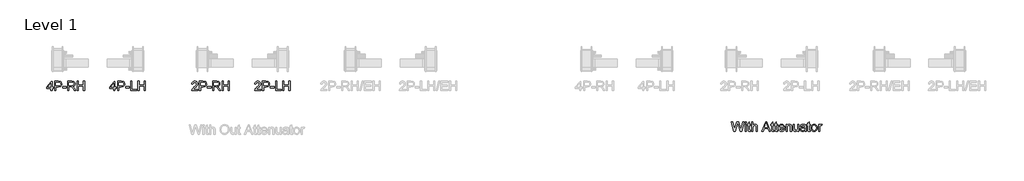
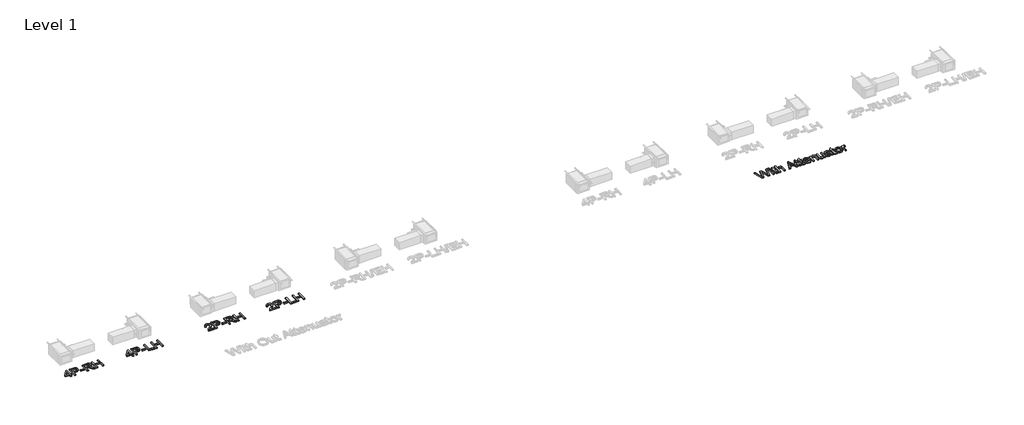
# One storey, part 3 of 4: 5 proxies.
"""IFC4 building model written with IfcOpenShell, lengths in millimetres."""

from ifc_helpers import new_model, si_unit, origin, origin_with_axes, place, context, project, spatial, polyline, outline, extrude, element, save

model = new_model("IFC4")

# Units and contexts
model_context = context("Model", 3, world=origin())
ifc_project = project(units=[si_unit("LENGTHUNIT", "METRE", prefix="MILLI")], contexts=[model_context])

# Site, building, storey
site = spatial("IfcSite", under=ifc_project)
building = spatial("IfcBuilding", under=site)
storey = spatial("IfcBuildingStorey", under=building, Name="Level 1", Elevation=0.0)

# Proxies
placement = place(None, origin())
element("IfcBuildingElementProxy", 1, Name="24\" Arial", ObjectType="24\" Arial", at=placement, inside=storey, context=model_context, shape_type="SweptSolid", body=[
    extrude(outline(polyline([(-25121.8551722, 537.1633988), (-25121.8551722, 480.0570687), (-25421.6634055, 480.0570687), (-25420.4086277, 500.1613968), (-25415.5289364, 519.4292065), (-25401.4475415, 550.1991456), (-25380.8413023, 580.0489143), (-25351.0333594, 611.2928806), (-25309.3468538, 646.2454123), (-25247.7233237, 700.9816066), (-25210.7492057, 741.3854506), (-25192.2621466, 774.1769761), (-25186.0997936, 806.0762152), (-25191.9135973, 834.6712062), (-25209.3550082, 858.4422738), (-25221.8714163, 867.7868826), (-25236.1654263, 874.4616032), (-25270.0862518, 879.8013797), (-25305.7079983, 874.587081), (-25320.5387743, 868.0692076), (-25333.3828189, 858.9441849), (-25343.7730759, 847.5187363), (-25351.2424891, 834.0995852), (-25355.7910584, 818.6867317), (-25357.418784, 801.2801757), (-25414.5251142, 808.418467), (-25409.6140534, 837.8987734), (-25400.6807329, 863.6565725), (-25387.7251525, 885.6918642), (-25370.7473123, 904.0046485), (-25350.1375875, 918.3997378), (-25326.2863536, 928.6819445), (-25299.1936104, 934.8512685), (-25268.859358, 936.9077098), (-25238.2532371, 934.6212259), (-25211.0141032, 927.7617741), (-25187.1419563, 916.3293545), (-25166.6367963, 900.3239671), (-25150.1678382, 880.9306797), (-25138.4042967, 859.3345602), (-25131.3461718, 835.5356086), (-25128.9934635, 809.533825), (-25131.530903, 782.2214957), (-25139.1432214, 755.3831936), (-25152.6529953, 728.0848063), (-25172.8828012, 699.3922215), (-25205.1305897, 665.1367886), (-25254.6943113, 621.149857), (-25320.3888981, 566.218475), (-25346.1536681, 537.1633988), (-25121.8551722, 537.1633988)])), origin_with_axes(), (0.0, 0.0, 1.0), 50.8),
    extrude(outline(polyline([(-25043.3339683, 480.0570687), (-25043.3339683, 936.9077098), (-24874.0226223, 936.9077098), (-24805.7627121, 932.5578136), (-24775.3273803, 924.4296421), (-24750.273651, 911.1987077), (-24730.099613, 892.2655054), (-24714.3033552, 867.0305305), (-24704.0978294, 837.2644135), (-24700.6959875, 804.7377856), (-24702.9929279, 776.6935026), (-24709.8837491, 750.8938776), (-24721.3684511, 727.3389106), (-24737.4470339, 706.0286016), (-24759.520666, 688.3641191), (-24788.990516, 675.7466316), (-24825.8565837, 668.1761392), (-24870.1188693, 665.6526417), (-24986.2276381, 665.6526417), (-24986.2276381, 480.0570687), (-25043.3339683, 480.0570687)]), holes=[polyline([(-24986.2276381, 722.7589718), (-24866.7727952, 722.7589718), (-24816.1355415, 728.0011544), (-24797.2581072, 734.5538828), (-24782.6748012, 743.7277024), (-24771.7930896, 755.2786288), (-24764.0204385, 768.9626774), (-24759.3568478, 784.7798482), (-24757.8023176, 802.7301411), (-24761.4690571, 828.3833754), (-24772.4692754, 850.0213208), (-24789.4366592, 866.3055477), (-24811.0048947, 875.8976266), (-24868.1112248, 879.8013797), (-24986.2276381, 879.8013797), (-24986.2276381, 722.7589718)])]), origin_with_axes(), (0.0, 0.0, 1.0), 50.8),
    extrude(outline(polyline([(-24657.8662399, 615.6846028), (-24657.8662399, 672.7909329), (-24479.4089582, 672.7909329), (-24479.4089582, 615.6846028), (-24657.8662399, 615.6846028)])), origin_with_axes(), (0.0, 0.0, 1.0), 50.8),
    extrude(outline(polyline([(-24408.0260455, 480.0570687), (-24408.0260455, 936.9077098), (-24350.9197154, 936.9077098), (-24350.9197154, 537.1633988), (-24122.4943948, 537.1633988), (-24122.4943948, 480.0570687), (-24408.0260455, 480.0570687)])), origin_with_axes(), (0.0, 0.0, 1.0), 50.8),
    extrude(outline(polyline([(-24058.2497734, 480.0570687), (-24058.2497734, 936.9077098), (-24001.1434433, 936.9077098), (-24001.1434433, 751.3121369), (-23758.4415402, 751.3121369), (-23758.4415402, 936.9077098), (-23701.33521, 936.9077098), (-23701.33521, 480.0570687), (-23758.4415402, 480.0570687), (-23758.4415402, 694.2058067), (-24001.1434433, 694.2058067), (-24001.1434433, 480.0570687), (-24058.2497734, 480.0570687)])), origin_with_axes(), (0.0, 0.0, 1.0), 50.8),
])
element("IfcBuildingElementProxy", 2, Name="24\" Arial", ObjectType="24\" Arial", at=placement, inside=storey, context=model_context, shape_type="SweptSolid", body=[
    extrude(outline(polyline([(-28169.8551722, 537.1633988), (-28169.8551722, 480.0570687), (-28469.6634055, 480.0570687), (-28468.4086277, 500.1613968), (-28463.5289364, 519.4292065), (-28449.4475415, 550.1991456), (-28428.8413023, 580.0489143), (-28399.0333594, 611.2928806), (-28357.3468538, 646.2454123), (-28295.7233237, 700.9816066), (-28258.7492057, 741.3854506), (-28240.2621466, 774.1769761), (-28234.0997936, 806.0762152), (-28239.9135973, 834.6712062), (-28257.3550082, 858.4422738), (-28269.8714163, 867.7868826), (-28284.1654263, 874.4616032), (-28318.0862518, 879.8013797), (-28353.7079983, 874.587081), (-28368.5387743, 868.0692076), (-28381.3828189, 858.9441849), (-28391.7730759, 847.5187363), (-28399.2424891, 834.0995852), (-28403.7910584, 818.6867317), (-28405.418784, 801.2801757), (-28462.5251142, 808.418467), (-28457.6140534, 837.8987734), (-28448.6807329, 863.6565725), (-28435.7251525, 885.6918642), (-28418.7473123, 904.0046485), (-28398.1375875, 918.3997378), (-28374.2863536, 928.6819445), (-28347.1936104, 934.8512685), (-28316.859358, 936.9077098), (-28286.2532371, 934.6212259), (-28259.0141032, 927.7617741), (-28235.1419563, 916.3293545), (-28214.6367963, 900.3239671), (-28198.1678382, 880.9306797), (-28186.4042967, 859.3345602), (-28179.3461718, 835.5356086), (-28176.9934635, 809.533825), (-28179.530903, 782.2214957), (-28187.1432214, 755.3831936), (-28200.6529953, 728.0848063), (-28220.8828012, 699.3922215), (-28253.1305897, 665.1367886), (-28302.6943113, 621.149857), (-28368.3888981, 566.218475), (-28394.1536681, 537.1633988), (-28169.8551722, 537.1633988)])), origin_with_axes(), (0.0, 0.0, 1.0), 50.8),
    extrude(outline(polyline([(-28091.3339683, 480.0570687), (-28091.3339683, 936.9077098), (-27922.0226223, 936.9077098), (-27853.7627121, 932.5578136), (-27823.3273803, 924.4296421), (-27798.273651, 911.1987077), (-27778.099613, 892.2655054), (-27762.3033552, 867.0305305), (-27752.0978294, 837.2644135), (-27748.6959875, 804.7377856), (-27750.9929279, 776.6935026), (-27757.8837491, 750.8938776), (-27769.3684511, 727.3389106), (-27785.4470339, 706.0286016), (-27807.520666, 688.3641191), (-27836.990516, 675.7466316), (-27873.8565837, 668.1761392), (-27918.1188693, 665.6526417), (-28034.2276381, 665.6526417), (-28034.2276381, 480.0570687), (-28091.3339683, 480.0570687)]), holes=[polyline([(-28034.2276381, 722.7589718), (-27914.7727952, 722.7589718), (-27864.1355415, 728.0011544), (-27845.2581072, 734.5538828), (-27830.6748012, 743.7277024), (-27819.7930896, 755.2786288), (-27812.0204385, 768.9626774), (-27807.3568478, 784.7798482), (-27805.8023176, 802.7301411), (-27809.4690571, 828.3833754), (-27820.4692754, 850.0213208), (-27837.4366592, 866.3055477), (-27859.0048947, 875.8976266), (-27916.1112248, 879.8013797), (-28034.2276381, 879.8013797), (-28034.2276381, 722.7589718)])]), origin_with_axes(), (0.0, 0.0, 1.0), 50.8),
    extrude(outline(polyline([(-27705.8662399, 615.6846028), (-27705.8662399, 672.7909329), (-27527.4089582, 672.7909329), (-27527.4089582, 615.6846028), (-27705.8662399, 615.6846028)])), origin_with_axes(), (0.0, 0.0, 1.0), 50.8),
    extrude(outline(polyline([(-27456.0260455, 480.0570687), (-27456.0260455, 936.9077098), (-27259.1653567, 936.9077098), (-27206.255561, 933.8265333), (-27167.7617677, 924.5830038), (-27139.6268619, 907.5180262), (-27117.7937288, 880.9725056), (-27103.7820438, 848.0555023), (-27099.1114821, 811.8760768), (-27101.0459312, 788.4117327), (-27106.8492783, 766.8713811), (-27116.5215236, 747.2550221), (-27130.0626669, 729.5626557), (-27147.6469831, 714.3589318), (-27169.4487467, 702.2085004), (-27195.4679578, 693.1113617), (-27225.7046163, 687.0675155), (-27193.2476982, 662.641175), (-27146.9603408, 603.8618079), (-27070.7813887, 480.0570687), (-27137.1451903, 480.0570687), (-27196.5937723, 574.7509638), (-27239.5350557, 637.434084), (-27255.4986172, 655.7120134), (-27269.7054898, 667.0468392), (-27296.8644574, 677.9215798), (-27329.9905903, 679.9292242), (-27398.9197154, 679.9292242), (-27398.9197154, 480.0570687), (-27456.0260455, 480.0570687)]), holes=[polyline([(-27398.9197154, 737.0355543), (-27271.0996874, 737.0355543), (-27234.3904668, 739.0571407), (-27205.9070116, 745.1218999), (-27184.4642539, 755.6341492), (-27168.8771257, 770.9982057), (-27159.3826406, 789.5828586), (-27156.2178123, 809.7568966), (-27157.7270311, 824.3611156), (-27162.2546875, 837.6129629), (-27169.8007816, 849.5124387), (-27180.3653132, 860.0595429), (-27194.192267, 868.6965965), (-27211.5256276, 874.8659205), (-27256.711569, 879.8013797), (-27398.9197154, 879.8013797), (-27398.9197154, 737.0355543)])]), origin_with_axes(), (0.0, 0.0, 1.0), 50.8),
    extrude(outline(polyline([(-26999.1754044, 480.0570687), (-26999.1754044, 936.9077098), (-26942.0690743, 936.9077098), (-26942.0690743, 751.3121369), (-26699.3671712, 751.3121369), (-26699.3671712, 936.9077098), (-26642.260841, 936.9077098), (-26642.260841, 480.0570687), (-26699.3671712, 480.0570687), (-26699.3671712, 694.2058067), (-26942.0690743, 694.2058067), (-26942.0690743, 480.0570687), (-26999.1754044, 480.0570687)])), origin_with_axes(), (0.0, 0.0, 1.0), 50.8),
])
element("IfcBuildingElementProxy", 3, Name="24\" Arial", ObjectType="24\" Arial", at=placement, inside=storey, context=model_context, shape_type="SweptSolid", body=[
    extrude(outline(polyline([(-32239.3295412, 480.0570687), (-32239.3295412, 587.1314377), (-32446.339988, 587.1314377), (-32446.339988, 644.2377679), (-32225.0529587, 929.7694185), (-32182.2232111, 929.7694185), (-32182.2232111, 644.2377679), (-32125.116881, 644.2377679), (-32125.116881, 587.1314377), (-32182.2232111, 587.1314377), (-32182.2232111, 480.0570687), (-32239.3295412, 480.0570687)]), holes=[polyline([(-32239.3295412, 644.2377679), (-32239.3295412, 820.6874051), (-32376.0724333, 644.2377679), (-32239.3295412, 644.2377679)])]), origin_with_axes(), (0.0, 0.0, 1.0), 50.8),
    extrude(outline(polyline([(-32053.7339683, 480.0570687), (-32053.7339683, 936.9077098), (-31884.4226223, 936.9077098), (-31816.1627121, 932.5578136), (-31785.7273803, 924.4296421), (-31760.673651, 911.1987077), (-31740.499613, 892.2655054), (-31724.7033552, 867.0305305), (-31714.4978294, 837.2644135), (-31711.0959875, 804.7377856), (-31713.3929279, 776.6935026), (-31720.2837491, 750.8938776), (-31731.7684511, 727.3389106), (-31747.8470339, 706.0286016), (-31769.920666, 688.3641191), (-31799.390516, 675.7466316), (-31836.2565837, 668.1761392), (-31880.5188693, 665.6526417), (-31996.6276381, 665.6526417), (-31996.6276381, 480.0570687), (-32053.7339683, 480.0570687)]), holes=[polyline([(-31996.6276381, 722.7589718), (-31877.1727952, 722.7589718), (-31826.5355415, 728.0011544), (-31807.6581072, 734.5538828), (-31793.0748012, 743.7277024), (-31782.1930896, 755.2786288), (-31774.4204385, 768.9626774), (-31769.7568478, 784.7798482), (-31768.2023176, 802.7301411), (-31771.8690571, 828.3833754), (-31782.8692754, 850.0213208), (-31799.8366592, 866.3055477), (-31821.4048947, 875.8976266), (-31878.5112248, 879.8013797), (-31996.6276381, 879.8013797), (-31996.6276381, 722.7589718)])]), origin_with_axes(), (0.0, 0.0, 1.0), 50.8),
    extrude(outline(polyline([(-31668.2662399, 615.6846028), (-31668.2662399, 672.7909329), (-31489.8089582, 672.7909329), (-31489.8089582, 615.6846028), (-31668.2662399, 615.6846028)])), origin_with_axes(), (0.0, 0.0, 1.0), 50.8),
    extrude(outline(polyline([(-31418.4260455, 480.0570687), (-31418.4260455, 936.9077098), (-31361.3197154, 936.9077098), (-31361.3197154, 537.1633988), (-31132.8943948, 537.1633988), (-31132.8943948, 480.0570687), (-31418.4260455, 480.0570687)])), origin_with_axes(), (0.0, 0.0, 1.0), 50.8),
    extrude(outline(polyline([(-31068.6497734, 480.0570687), (-31068.6497734, 936.9077098), (-31011.5434433, 936.9077098), (-31011.5434433, 751.3121369), (-30768.8415402, 751.3121369), (-30768.8415402, 936.9077098), (-30711.73521, 936.9077098), (-30711.73521, 480.0570687), (-30768.8415402, 480.0570687), (-30768.8415402, 694.2058067), (-31011.5434433, 694.2058067), (-31011.5434433, 480.0570687), (-31068.6497734, 480.0570687)])), origin_with_axes(), (0.0, 0.0, 1.0), 50.8),
])
element("IfcBuildingElementProxy", 4, Name="24\" Arial", ObjectType="24\" Arial", at=placement, inside=storey, context=model_context, shape_type="SweptSolid", body=[
    extrude(outline(polyline([(-35287.3295412, 480.0570687), (-35287.3295412, 587.1314377), (-35494.339988, 587.1314377), (-35494.339988, 644.2377679), (-35273.0529587, 929.7694185), (-35230.2232111, 929.7694185), (-35230.2232111, 644.2377679), (-35173.116881, 644.2377679), (-35173.116881, 587.1314377), (-35230.2232111, 587.1314377), (-35230.2232111, 480.0570687), (-35287.3295412, 480.0570687)]), holes=[polyline([(-35287.3295412, 644.2377679), (-35287.3295412, 820.6874051), (-35424.0724333, 644.2377679), (-35287.3295412, 644.2377679)])]), origin_with_axes(), (0.0, 0.0, 1.0), 50.8),
    extrude(outline(polyline([(-35101.7339683, 480.0570687), (-35101.7339683, 936.9077098), (-34932.4226223, 936.9077098), (-34864.1627121, 932.5578136), (-34833.7273803, 924.4296421), (-34808.673651, 911.1987077), (-34788.499613, 892.2655054), (-34772.7033552, 867.0305305), (-34762.4978294, 837.2644135), (-34759.0959875, 804.7377856), (-34761.3929279, 776.6935026), (-34768.2837491, 750.8938776), (-34779.7684511, 727.3389106), (-34795.8470339, 706.0286016), (-34817.920666, 688.3641191), (-34847.390516, 675.7466316), (-34884.2565837, 668.1761392), (-34928.5188693, 665.6526417), (-35044.6276381, 665.6526417), (-35044.6276381, 480.0570687), (-35101.7339683, 480.0570687)]), holes=[polyline([(-35044.6276381, 722.7589718), (-34925.1727952, 722.7589718), (-34874.5355415, 728.0011544), (-34855.6581072, 734.5538828), (-34841.0748012, 743.7277024), (-34830.1930896, 755.2786288), (-34822.4204385, 768.9626774), (-34817.7568478, 784.7798482), (-34816.2023176, 802.7301411), (-34819.8690571, 828.3833754), (-34830.8692754, 850.0213208), (-34847.8366592, 866.3055477), (-34869.4048947, 875.8976266), (-34926.5112248, 879.8013797), (-35044.6276381, 879.8013797), (-35044.6276381, 722.7589718)])]), origin_with_axes(), (0.0, 0.0, 1.0), 50.8),
    extrude(outline(polyline([(-34716.2662399, 615.6846028), (-34716.2662399, 672.7909329), (-34537.8089582, 672.7909329), (-34537.8089582, 615.6846028), (-34716.2662399, 615.6846028)])), origin_with_axes(), (0.0, 0.0, 1.0), 50.8),
    extrude(outline(polyline([(-34466.4260455, 480.0570687), (-34466.4260455, 936.9077098), (-34269.5653567, 936.9077098), (-34216.655561, 933.8265333), (-34178.1617677, 924.5830038), (-34150.0268619, 907.5180262), (-34128.1937288, 880.9725056), (-34114.1820438, 848.0555023), (-34109.5114821, 811.8760768), (-34111.4459312, 788.4117327), (-34117.2492783, 766.8713811), (-34126.9215236, 747.2550221), (-34140.4626669, 729.5626557), (-34158.0469831, 714.3589318), (-34179.8487467, 702.2085004), (-34205.8679578, 693.1113617), (-34236.1046163, 687.0675155), (-34203.6476982, 662.641175), (-34157.3603408, 603.8618079), (-34081.1813887, 480.0570687), (-34147.5451903, 480.0570687), (-34206.9937723, 574.7509638), (-34249.9350557, 637.434084), (-34265.8986172, 655.7120134), (-34280.1054898, 667.0468392), (-34307.2644574, 677.9215798), (-34340.3905903, 679.9292242), (-34409.3197154, 679.9292242), (-34409.3197154, 480.0570687), (-34466.4260455, 480.0570687)]), holes=[polyline([(-34409.3197154, 737.0355543), (-34281.4996874, 737.0355543), (-34244.7904668, 739.0571407), (-34216.3070116, 745.1218999), (-34194.8642539, 755.6341492), (-34179.2771257, 770.9982057), (-34169.7826406, 789.5828586), (-34166.6178123, 809.7568966), (-34168.1270311, 824.3611156), (-34172.6546875, 837.6129629), (-34180.2007816, 849.5124387), (-34190.7653132, 860.0595429), (-34204.592267, 868.6965965), (-34221.9256276, 874.8659205), (-34267.111569, 879.8013797), (-34409.3197154, 879.8013797), (-34409.3197154, 737.0355543)])]), origin_with_axes(), (0.0, 0.0, 1.0), 50.8),
    extrude(outline(polyline([(-34009.5754044, 480.0570687), (-34009.5754044, 936.9077098), (-33952.4690743, 936.9077098), (-33952.4690743, 751.3121369), (-33709.7671712, 751.3121369), (-33709.7671712, 936.9077098), (-33652.660841, 936.9077098), (-33652.660841, 480.0570687), (-33709.7671712, 480.0570687), (-33709.7671712, 694.2058067), (-33952.4690743, 694.2058067), (-33952.4690743, 480.0570687), (-34009.5754044, 480.0570687)])), origin_with_axes(), (0.0, 0.0, 1.0), 50.8),
])
element("IfcBuildingElementProxy", 5, Name="24\" Arial", ObjectType="24\" Arial", at=placement, inside=storey, context=model_context, shape_type="SweptSolid", body=[
    extrude(outline(polyline([(-2221.8231801, -1493.3539751), (-2346.4086699, -1036.503334), (-2287.5177669, -1036.503334), (-2215.2425678, -1336.7577105), (-2192.9354076, -1429.4439611), (-2169.0667462, -1347.4651474), (-2078.4996757, -1036.503334), (-1993.6209311, -1036.503334), (-1927.8148085, -1261.917188), (-1899.6241348, -1345.5690387), (-1878.8505919, -1429.4439611), (-1857.2126465, -1339.4345697), (-1784.2682326, -1036.503334), (-1725.3773296, -1036.503334), (-1850.0743552, -1493.3539751), (-1911.0844384, -1493.3539751), (-2020.612595, -1140.9008438), (-2035.8929997, -1091.7135556), (-2053.0695131, -1150.9390659), (-2152.894055, -1493.3539751), (-2221.8231801, -1493.3539751)])), origin_with_axes(), (0.0, 0.0, 1.0), 50.8),
    extrude(outline(polyline([(-1675.4092907, -1093.6096642), (-1675.4092907, -1036.503334), (-1618.3029606, -1036.503334), (-1618.3029606, -1093.6096642), (-1675.4092907, -1093.6096642)])), origin_with_axes(), (0.0, 0.0, 1.0), 50.8),
    extrude(outline(polyline([(-1675.4092907, -1493.3539751), (-1675.4092907, -1157.8542856), (-1618.3029606, -1157.8542856), (-1618.3029606, -1493.3539751), (-1675.4092907, -1493.3539751)])), origin_with_axes(), (0.0, 0.0, 1.0), 50.8),
    extrude(outline(polyline([(-1411.2925139, -1445.7281881), (-1404.1542226, -1495.0270121), (-1446.8724344, -1500.4922664), (-1474.2823575, -1498.1221306), (-1494.721293, -1491.0117233), (-1509.1651793, -1480.0533309), (-1518.5899545, -1466.1392397), (-1523.7763692, -1442.2426943), (-1525.5051741, -1401.3369393), (-1525.5051741, -1214.9606157), (-1568.3349217, -1214.9606157), (-1568.3349217, -1157.8542856), (-1525.5051741, -1157.8542856), (-1525.5051741, -1076.321615), (-1468.398844, -1042.7493389), (-1468.398844, -1157.8542856), (-1411.2925139, -1157.8542856), (-1411.2925139, -1214.9606157), (-1468.398844, -1214.9606157), (-1468.398844, -1399.6639023), (-1465.3873774, -1429.1093537), (-1455.6279948, -1439.5379511), (-1436.1649975, -1443.3859363), (-1411.2925139, -1445.7281881)])), origin_with_axes(), (0.0, 0.0, 1.0), 50.8),
    extrude(outline(polyline([(-1354.1861837, -1493.3539751), (-1354.1861837, -1036.503334), (-1297.0798536, -1036.503334), (-1297.0798536, -1204.4762504), (-1276.104152, -1180.9561384), (-1252.549185, -1164.1560583), (-1226.4149526, -1154.0760103), (-1197.7014548, -1150.7159943), (-1163.2090084, -1154.3827338), (-1133.5683692, -1165.3829521), (-1110.2295029, -1182.852247), (-1094.6423747, -1205.9262158), (-1085.8589303, -1237.6302673), (-1082.9311156, -1280.9898099), (-1082.9311156, -1493.3539751), (-1140.0374457, -1493.3539751), (-1140.0374457, -1286.9012074), (-1144.5825296, -1251.1539832), (-1150.2638845, -1237.5047895), (-1158.2177813, -1226.6718748), (-1180.1903341, -1212.534712), (-1209.7473214, -1207.8223244), (-1233.8808803, -1211.0010948), (-1256.5365899, -1220.5374058), (-1275.3024884, -1235.5110871), (-1287.7666142, -1255.0019683), (-1294.7515437, -1280.9061581), (-1297.0798536, -1315.1197651), (-1297.0798536, -1493.3539751), (-1354.1861837, -1493.3539751)])), origin_with_axes(), (0.0, 0.0, 1.0), 50.8),
    extrude(outline(polyline([(-872.0169158, -1493.3539751), (-689.6558811, -1036.503334), (-641.0262718, -1036.503334), (-458.6652371, -1493.3539751), (-519.0061055, -1493.3539751), (-571.3163961, -1350.5881498), (-759.4772925, -1350.5881498), (-811.6760474, -1493.3539751), (-872.0169158, -1493.3539751)]), holes=[polyline([(-738.5085619, -1293.4818197), (-592.1735909, -1293.4818197), (-633.3303015, -1181.165268), (-665.3410764, -1093.6096642), (-693.7827057, -1171.3501175), (-738.5085619, -1293.4818197)])]), origin_with_axes(), (0.0, 0.0, 1.0), 50.8),
    extrude(outline(polyline([(-283.4424936, -1445.7281881), (-276.3042024, -1495.0270121), (-319.0224142, -1500.4922664), (-346.4323373, -1498.1221306), (-366.8712728, -1491.0117233), (-381.3151591, -1480.0533309), (-390.7399342, -1466.1392397), (-395.926349, -1442.2426943), (-397.6551539, -1401.3369393), (-397.6551539, -1214.9606157), (-440.4849015, -1214.9606157), (-440.4849015, -1157.8542856), (-397.6551539, -1157.8542856), (-397.6551539, -1076.321615), (-340.5488238, -1042.7493389), (-340.5488238, -1157.8542856), (-283.4424936, -1157.8542856), (-283.4424936, -1214.9606157), (-340.5488238, -1214.9606157), (-340.5488238, -1399.6639023), (-337.5373571, -1429.1093537), (-327.7779746, -1439.5379511), (-308.3149773, -1443.3859363), (-283.4424936, -1445.7281881)])), origin_with_axes(), (0.0, 0.0, 1.0), 50.8),
    extrude(outline(polyline([(-104.985212, -1445.7281881), (-97.8469207, -1495.0270121), (-140.5651325, -1500.4922664), (-167.9750556, -1498.1221306), (-188.4139911, -1491.0117233), (-202.8578774, -1480.0533309), (-212.2826526, -1466.1392397), (-217.4690673, -1442.2426943), (-219.1978722, -1401.3369393), (-219.1978722, -1214.9606157), (-262.0276198, -1214.9606157), (-262.0276198, -1157.8542856), (-219.1978722, -1157.8542856), (-219.1978722, -1076.321615), (-162.0915421, -1042.7493389), (-162.0915421, -1157.8542856), (-104.985212, -1157.8542856), (-104.985212, -1214.9606157), (-162.0915421, -1214.9606157), (-162.0915421, -1399.6639023), (-159.0800755, -1429.1093537), (-149.3206929, -1439.5379511), (-129.8576956, -1443.3859363), (-104.985212, -1445.7281881)])), origin_with_axes(), (0.0, 0.0, 1.0), 50.8),
    extrude(outline(polyline([(187.0155152, -1393.4178974), (243.0064873, -1400.5561887), (234.4217161, -1422.9818557), (222.8324493, -1442.7446054), (208.2386868, -1459.8444379), (190.6404287, -1474.2813532), (170.2189207, -1485.7486277), (147.1554083, -1493.9395381), (121.4498916, -1498.8540843), (93.1023707, -1500.4922664), (57.6688409, -1497.6655309), (26.0972382, -1489.1853246), (-1.6124373, -1475.0516473), (-25.4601858, -1455.2644991), (-44.6373726, -1430.374588), (-58.3353632, -1400.932622), (-66.5541575, -1366.9386011), (-69.2937556, -1328.3925254), (-66.5262736, -1288.5393895), (-58.2238274, -1253.4125831), (-44.386417, -1223.0121064), (-25.0140426, -1197.3379591), (-1.229033, -1176.9408495), (25.8462827, -1162.3714855), (56.2119045, -1153.6298671), (89.8678325, -1150.7159943), (122.4397719, -1153.6228961), (151.8956798, -1162.3436016), (178.2355564, -1176.8781106), (201.4594014, -1197.2264233), (220.4170021, -1222.8448026), (233.9581455, -1253.1895115), (242.0828315, -1288.26055), (244.7910601, -1328.057918), (244.4564527, -1343.4498585), (-12.1874255, -1343.4498585), (-8.8796919, -1366.2380169), (-2.3025651, -1386.1959543), (7.5439548, -1403.3236707), (20.6598679, -1417.6211662), (36.3201915, -1428.8932531), (53.7999428, -1436.9447438), (73.0991219, -1441.7756381), (94.2177287, -1443.3859363), (124.6112345, -1440.4023536), (150.2087008, -1431.4516056), (171.0101277, -1415.9760132), (187.0155152, -1393.4178974)]), holes=[polyline([(-12.1874255, -1286.3435284), (187.68473, -1286.3435284), (179.9608758, -1256.1730942), (164.8198908, -1234.5909167), (149.2467046, -1222.8796576), (131.5264542, -1214.5144725), (111.6591396, -1209.4953615), (89.6447609, -1207.8223244), (51.1509675, -1213.1621009), (19.3214383, -1229.1814303), (6.6656104, -1240.7637262), (-2.8044762, -1254.1515078), (-9.0888215, -1269.3447752), (-12.1874255, -1286.3435284)])]), origin_with_axes(), (0.0, 0.0, 1.0), 50.8),
    extrude(outline(polyline([(301.8973903, -1493.3539751), (301.8973903, -1157.8542856), (359.0037204, -1157.8542856), (359.0037204, -1204.699322), (378.843151, -1181.0816161), (402.6699865, -1164.2118262), (430.4842269, -1154.0899523), (462.2858722, -1150.7159943), (490.43472, -1153.4346795), (516.213432, -1161.5907349), (537.7119576, -1174.1663965), (553.0202463, -1190.1439), (563.4070178, -1209.4814195), (570.1409918, -1232.1371291), (573.1524584, -1287.3473506), (573.1524584, -1493.3539751), (516.0461283, -1493.3539751), (516.0461283, -1295.0433209), (514.4009752, -1265.5142175), (509.465516, -1244.517603), (500.3614063, -1229.4742118), (486.2103015, -1217.8047786), (468.0717919, -1210.317938), (447.0054674, -1207.8223244), (413.5586691, -1213.4269984), (385.04733, -1230.2410205), (373.6532508, -1243.966895), (365.5146228, -1262.7258225), (360.631446, -1286.5178031), (359.0037204, -1315.3428367), (359.0037204, -1493.3539751), (301.8973903, -1493.3539751)])), origin_with_axes(), (0.0, 0.0, 1.0), 50.8),
    extrude(outline(polyline([(865.8224004, -1493.3539751), (865.8224004, -1435.689966), (845.1603932, -1464.0409724), (821.0965442, -1484.2916913), (793.6308532, -1496.4421226), (762.7633202, -1500.4922664), (734.9490798, -1497.6481035), (709.058832, -1489.1156147), (687.3372348, -1476.2889976), (672.0289461, -1460.5624496), (661.7258264, -1441.4619437), (655.0197364, -1418.5134526), (651.6736624, -1365.4224113), (651.6736624, -1157.8542856), (708.7799925, -1157.8542856), (708.7799925, -1338.5422833), (712.2376023, -1396.7639714), (720.5609615, -1416.1851428), (734.8236021, -1430.9496944), (754.0774697, -1440.2768758), (777.3745102, -1443.3859363), (802.0099802, -1440.2071659), (825.0560651, -1430.6708549), (844.0589772, -1415.6553477), (856.5649289, -1396.0389887), (863.5080325, -1369.1728026), (865.8224004, -1332.4078142), (865.8224004, -1157.8542856), (922.9287305, -1157.8542856), (922.9287305, -1493.3539751), (865.8224004, -1493.3539751)])), origin_with_axes(), (0.0, 0.0, 1.0), 50.8),
    extrude(outline(polyline([(1215.5986725, -1450.5242275), (1188.3142271, -1473.9188618), (1160.2211473, -1489.2271505), (1130.678102, -1497.6759874), (1099.0437604, -1500.4922664), (1073.6170832, -1498.7983164), (1051.3203795, -1493.7164665), (1032.1536492, -1485.2467166), (1016.1168923, -1473.3890667), (1003.4540934, -1458.8963836), (994.409237, -1442.5215338), (988.9823232, -1424.2645174), (987.1733519, -1404.1253343), (989.9059791, -1380.4518605), (998.1038604, -1358.9533349), (1010.7492319, -1340.5499277), (1026.8243292, -1326.1618094), (1045.7157055, -1315.2870688), (1066.8099139, -1307.4237948), (1116.2202737, -1298.8355381), (1174.6092656, -1289.8011382), (1215.2640651, -1279.2052371), (1215.5986725, -1266.4901558), (1211.6670355, -1241.0042253), (1199.8721245, -1224.329623), (1173.4939076, -1211.9491491), (1136.7428611, -1207.8223244), (1102.7244418, -1210.5688935), (1078.9673162, -1218.8086008), (1062.7667411, -1234.0471797), (1051.4179733, -1257.7903633), (994.3116432, -1250.652072), (1004.2243875, -1219.4220478), (1019.0168231, -1194.8841715), (1040.0692056, -1176.118273), (1068.7617904, -1162.2041818), (1103.8537418, -1153.5880412), (1144.104224, -1150.7159943), (1182.7095531, -1153.2534338), (1213.3121886, -1160.8657522), (1236.3861574, -1172.3121138), (1252.4054868, -1186.3516827), (1263.0292719, -1203.7094418), (1269.9166076, -1225.1103736), (1272.7050026, -1275.0784125), (1272.7050026, -1346.1267177), (1275.6049334, -1445.3378128), (1286.9815852, -1493.3539751), (1229.875255, -1493.3539751), (1220.7293193, -1473.5006025), (1215.5986725, -1450.5242275)]), holes=[polyline([(1215.5986725, -1336.3115673), (1177.2303569, -1345.8199943), (1123.4701008, -1353.822688), (1074.3385805, -1363.0801595), (1061.5537893, -1369.4098162), (1052.0871881, -1378.1374926), (1046.2315586, -1388.593974), (1044.2796821, -1400.1100455), (1048.5319845, -1417.0913712), (1061.2888917, -1431.0054623), (1082.2715643, -1440.2908178), (1111.2011627, -1443.3859363), (1141.873508, -1439.9701524), (1168.9767076, -1429.7228006), (1190.9492604, -1414.6236416), (1206.2296652, -1396.6524356), (1213.0054651, -1378.1374926), (1215.2640651, -1352.4842584), (1215.5986725, -1336.3115673)])]), origin_with_axes(), (0.0, 0.0, 1.0), 50.8),
    extrude(outline(polyline([(1472.5771581, -1445.7281881), (1479.7154494, -1495.0270121), (1436.9972376, -1500.4922664), (1409.5873145, -1498.1221306), (1389.1483789, -1491.0117233), (1374.7044927, -1480.0533309), (1365.2797175, -1466.1392397), (1360.0933027, -1442.2426943), (1358.3644978, -1401.3369393), (1358.3644978, -1214.9606157), (1315.5347502, -1214.9606157), (1315.5347502, -1157.8542856), (1358.3644978, -1157.8542856), (1358.3644978, -1076.321615), (1415.470828, -1042.7493389), (1415.470828, -1157.8542856), (1472.5771581, -1157.8542856), (1472.5771581, -1214.9606157), (1415.470828, -1214.9606157), (1415.470828, -1399.6639023), (1418.4822946, -1429.1093537), (1428.2416772, -1439.5379511), (1447.7046745, -1443.3859363), (1472.5771581, -1445.7281881)])), origin_with_axes(), (0.0, 0.0, 1.0), 50.8),
    extrude(outline(polyline([(1515.4069057, -1325.6041304), (1518.4950532, -1282.1539649), (1527.7594957, -1244.7127906), (1543.2002331, -1213.2806077), (1564.8172656, -1187.8574161), (1586.5806888, -1171.608044), (1610.6027119, -1160.0013497), (1636.883335, -1153.0373332), (1665.4225581, -1150.7159943), (1696.9279364, -1153.5427298), (1725.4148771, -1162.0229361), (1750.8833802, -1176.1566134), (1773.3334456, -1195.9437616), (1791.6566865, -1220.7151659), (1804.7447156, -1249.8016116), (1812.5975331, -1283.2030985), (1815.2151389, -1320.9196267), (1810.5864032, -1378.6115198), (1804.8004835, -1402.2919646), (1796.700196, -1422.5287415), (1773.9608345, -1455.4178608), (1742.7726361, -1480.0254469), (1705.7288082, -1495.3755615), (1665.4225581, -1500.4922664), (1633.4570946, -1497.6759874), (1604.7052564, -1489.2271505), (1579.1670435, -1475.1457556), (1556.8424558, -1455.4318028), (1538.7144026, -1430.4198994), (1525.7657932, -1400.4446529), (1517.9966276, -1365.5060632), (1515.4069057, -1325.6041304)]), holes=[polyline([(1572.5132358, -1325.4925946), (1574.1653599, -1353.1918136), (1579.1217321, -1377.1754964), (1587.3823523, -1397.4436427), (1598.9472207, -1413.9962527), (1613.0146736, -1426.8542393), (1628.7830475, -1436.0385154), (1646.2523423, -1441.549081), (1665.4225581, -1443.3859363), (1684.4951801, -1441.5386246), (1701.8947651, -1435.9966894), (1717.621313, -1426.7601309), (1731.6748239, -1413.828949), (1743.2396923, -1397.1125208), (1751.5003126, -1376.5202235), (1756.4566847, -1352.0520572), (1758.1088088, -1323.7080217), (1756.4462283, -1296.8871471), (1751.4584867, -1273.5308532), (1743.145584, -1253.6391402), (1731.5075202, -1237.212008), (1717.4017269, -1224.3540215), (1701.6856354, -1215.1697453), (1684.3592458, -1209.6591797), (1665.4225581, -1207.8223244), (1646.2523423, -1209.6522087), (1628.7830475, -1215.1418614), (1613.0146736, -1224.2912826), (1598.9472207, -1237.1004722), (1587.3823523, -1253.6042853), (1579.1217321, -1273.8375767), (1574.1653599, -1297.8003464), (1572.5132358, -1325.4925946)])]), origin_with_axes(), (0.0, 0.0, 1.0), 50.8),
    extrude(outline(polyline([(1879.4597603, -1493.3539751), (1879.4597603, -1157.8542856), (1929.4277992, -1157.8542856), (1929.4277992, -1207.487717), (1947.8869743, -1178.7114804), (1964.8961839, -1161.7580386), (1981.9611615, -1153.4765054), (2000.5876403, -1150.7159943), (2029.0292695, -1155.1216584), (2057.917042, -1168.3386509), (2038.84442, -1219.5335836), (2018.7679758, -1210.7501392), (1998.6915317, -1207.8223244), (1981.6404961, -1210.6386034), (1966.4019173, -1219.0874404), (1954.0911532, -1232.5275044), (1945.823562, -1250.3174646), (1938.8804583, -1282.2167037), (1936.5660905, -1317.0158737), (1936.5660905, -1493.3539751), (1879.4597603, -1493.3539751)])), origin_with_axes(), (0.0, 0.0, 1.0), 50.8),
])

save(model, "model.ifc")
